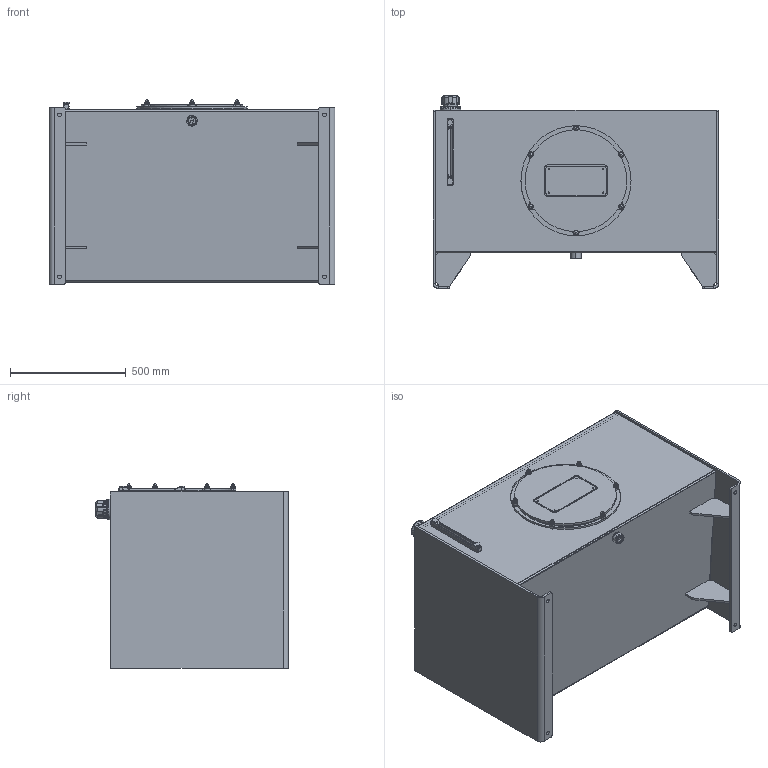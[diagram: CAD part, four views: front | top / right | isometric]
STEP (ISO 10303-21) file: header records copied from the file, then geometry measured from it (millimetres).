
FILE_DESCRIPTION (( 'STEP AP214' ), '1' );
FILE_NAME ('RDIN120-AFA.STEP', '2021-10-18T13:45:25', ( 'Windows User' ), ( '' ), 'SwSTEP 2.0', 'SolidWorks 2020', '' );
FILE_SCHEMA (( 'AUTOMOTIVE_DESIGN' ));
Length unit declared in the file: inch
Products named in the file (24): WFZM010; NHP50016-20H__.50-20_NUT_95505A615; RDIN120-AFA-GUSSET1; REC-M475C; RHJ-PLUG-200; FB-F008_FB-F-008; PLLG-10T; RDIN120-AFA; FB-C-H_FB-H008W; FB-H008W; Weld Riser; RHJ-PLUG-016; RDIN120-AFA-GUSSET2; BHS8100-15350; RDIN120-AFA-TOP; RDIN120-AFA-REND; S16; QSTSBUR00080008; RDIN120-AFA-BODY_RJIC020-BODY; NAC100-15; REC-M475K; 8162-010-2_4534K46; FB-S-W; RDIN120-AFA-LEND
Assembly tree (42 placements, depth 3):
  RHJ-PLUG-200
  RDIN120-AFA
    RDIN120-AFA-BODY_RJIC020-BODY
    RDIN120-AFA-LEND
    RDIN120-AFA-REND
    RDIN120-AFA-TOP
    Weld Riser
    FB-H008W
      FB-F008_FB-F-008
      FB-S-W
      FB-C-H_FB-H008W
    BHS8100-15350  x6
    PLLG-10T
    REC-M475K
      REC-M475C
      NAC100-15  x6
      WFZM010  x6
    S16
    8162-010-2_4534K46
    RDIN120-AFA-GUSSET1  x2
    RDIN120-AFA-GUSSET2  x2
    QSTSBUR00080008  x4
    NHP50016-20H__.50-20_NUT_95505A615  x2
  RHJ-PLUG-016
Bounding box: 1231.9 x 831.47 x 795.44 mm (x, y, z)
Volume: 30137164.9 mm3; surface area: 9696921.4 mm2
Topology: 43 solids, 43 shells, 1324 faces, 3091 edges, 1839 vertices
Faces by surface type: plane 439, cylinder 417, cone 226, bspline 100, torus 94, sphere 48
Entity records: 36320 total; most frequent: CARTESIAN_POINT 10014, DIRECTION 5238, ORIENTED_EDGE 4830, EDGE_CURVE 2415, AXIS2_PLACEMENT_3D 2125, VERTEX_POINT 1453, EDGE_LOOP 1160, CIRCLE 1143
